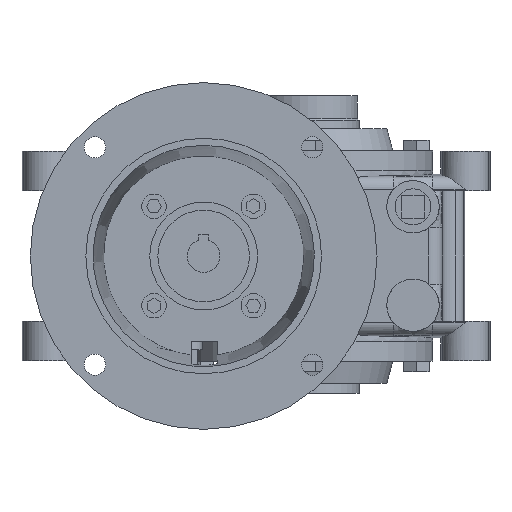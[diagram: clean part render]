
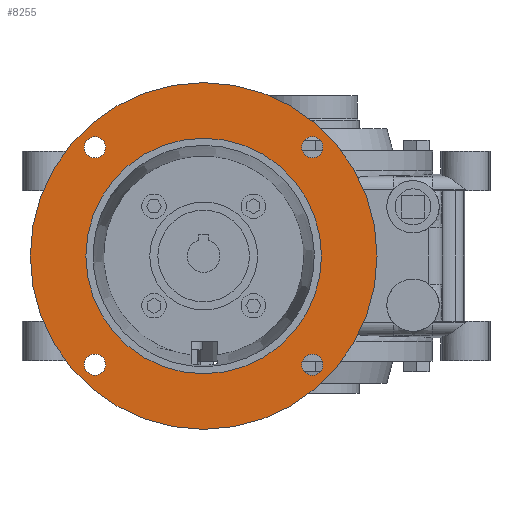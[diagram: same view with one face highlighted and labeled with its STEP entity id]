
A CAD part, front view. The second image highlights one B-rep face of the part: STEP entity #8255.
In plain terms, the highlighted planar face has unit normal (0, -1, 0) as drawn and (1, 0, 0) by its records, which use the part's own axes.
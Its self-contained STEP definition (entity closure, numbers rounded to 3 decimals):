
#3619=ORIENTED_EDGE('',*,*,#4951,.F.);
#3620=ORIENTED_EDGE('',*,*,#4952,.F.);
#3621=ORIENTED_EDGE('',*,*,#4953,.F.);
#3622=ORIENTED_EDGE('',*,*,#4954,.F.);
#3623=ORIENTED_EDGE('',*,*,#4955,.F.);
#3624=ORIENTED_EDGE('',*,*,#4950,.T.);
#4950=EDGE_CURVE('',#5780,#5780,#6138,.T.);
#4951=EDGE_CURVE('',#5781,#5781,#6139,.T.);
#4952=EDGE_CURVE('',#5782,#5782,#6140,.T.);
#4953=EDGE_CURVE('',#5783,#5783,#6141,.T.);
#4954=EDGE_CURVE('',#5784,#5784,#6142,.T.);
#4955=EDGE_CURVE('',#5785,#5785,#6143,.T.);
#5780=VERTEX_POINT('',#16088);
#5781=VERTEX_POINT('',#16091);
#5782=VERTEX_POINT('',#16093);
#5783=VERTEX_POINT('',#16095);
#5784=VERTEX_POINT('',#16097);
#5785=VERTEX_POINT('',#16099);
#6138=CIRCLE('',#10430,57.169);
#6139=CIRCLE('',#10432,5.159);
#6140=CIRCLE('',#10433,5.159);
#6141=CIRCLE('',#10434,5.159);
#6142=CIRCLE('',#10435,5.159);
#6143=CIRCLE('',#10436,84.138);
#6705=EDGE_LOOP('',(#3619));
#6706=EDGE_LOOP('',(#3620));
#6707=EDGE_LOOP('',(#3621));
#6708=EDGE_LOOP('',(#3622));
#6709=EDGE_LOOP('',(#3623));
#6710=EDGE_LOOP('',(#3624));
#7380=FACE_BOUND('',#6705,.T.);
#7381=FACE_BOUND('',#6706,.T.);
#7382=FACE_BOUND('',#6707,.T.);
#7383=FACE_BOUND('',#6708,.T.);
#7384=FACE_BOUND('',#6709,.T.);
#7385=FACE_BOUND('',#6710,.T.);
#7775=PLANE('',#10431);
#8255=ADVANCED_FACE('',(#7380,#7381,#7382,#7383,#7384,#7385),#7775,.F.);
#10430=AXIS2_PLACEMENT_3D('',#16087,#12428,#12429);
#10431=AXIS2_PLACEMENT_3D('',#16089,#12430,#12431);
#10432=AXIS2_PLACEMENT_3D('',#16090,#12432,#12433);
#10433=AXIS2_PLACEMENT_3D('',#16092,#12434,#12435);
#10434=AXIS2_PLACEMENT_3D('',#16094,#12436,#12437);
#10435=AXIS2_PLACEMENT_3D('',#16096,#12438,#12439);
#10436=AXIS2_PLACEMENT_3D('',#16098,#12440,#12441);
#12428=DIRECTION('',(-1.,0.,0.));
#12429=DIRECTION('',(0.,0.,1.));
#12430=DIRECTION('',(-1.,0.,0.));
#12431=DIRECTION('',(0.,0.,1.));
#12432=DIRECTION('',(1.,0.,0.));
#12433=DIRECTION('',(0.,1.,0.));
#12434=DIRECTION('',(1.,0.,0.));
#12435=DIRECTION('',(0.,1.,0.));
#12436=DIRECTION('',(1.,0.,0.));
#12437=DIRECTION('',(0.,1.,0.));
#12438=DIRECTION('',(1.,0.,0.));
#12439=DIRECTION('',(0.,1.,0.));
#12440=DIRECTION('',(-1.,0.,0.));
#12441=DIRECTION('',(0.,0.,1.));
#16087=CARTESIAN_POINT('',(122.53,0.,0.));
#16088=CARTESIAN_POINT('',(122.53,0.,57.169));
#16089=CARTESIAN_POINT('',(122.53,0.,57.169));
#16090=CARTESIAN_POINT('',(122.53,-52.759,52.759));
#16091=CARTESIAN_POINT('',(122.53,-47.6,52.759));
#16092=CARTESIAN_POINT('',(122.53,-52.759,-52.759));
#16093=CARTESIAN_POINT('',(122.53,-47.6,-52.759));
#16094=CARTESIAN_POINT('',(122.53,52.759,52.759));
#16095=CARTESIAN_POINT('',(122.53,57.918,52.759));
#16096=CARTESIAN_POINT('',(122.53,52.759,-52.759));
#16097=CARTESIAN_POINT('',(122.53,57.918,-52.759));
#16098=CARTESIAN_POINT('',(122.53,0.,0.));
#16099=CARTESIAN_POINT('',(122.53,0.,84.138));
